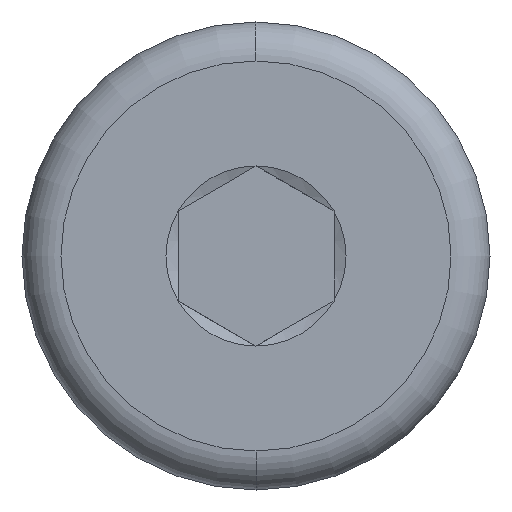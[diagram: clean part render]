
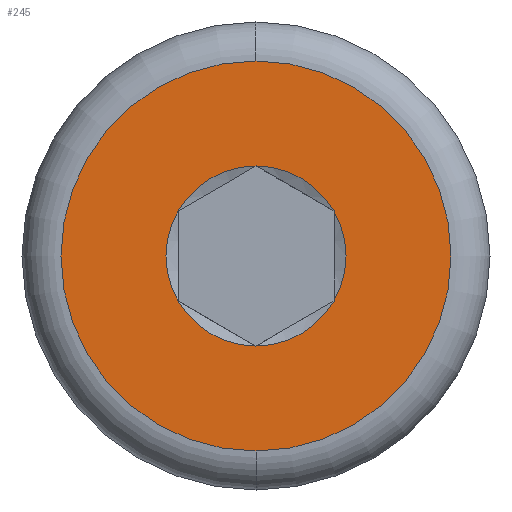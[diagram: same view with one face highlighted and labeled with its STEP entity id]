
A CAD part, left-side view. The second image highlights one B-rep face of the part: STEP entity #245.
In plain terms, the highlighted planar face has unit normal (-1, 0, 0).
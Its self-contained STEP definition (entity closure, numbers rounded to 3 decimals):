
#4 = CIRCLE ( 'NONE', #260, 1.155 ) ;
#8 = ORIENTED_EDGE ( 'NONE', *, *, #176, .T. ) ;
#28 = DIRECTION ( 'NONE',  ( 1., 0., 0. ) ) ;
#54 = CARTESIAN_POINT ( 'NONE',  ( 0., 0., 0. ) ) ;
#56 = CARTESIAN_POINT ( 'NONE',  ( 0., -1., -0.577 ) ) ;
#68 = AXIS2_PLACEMENT_3D ( 'NONE', #230, #188, #550 ) ;
#72 = CARTESIAN_POINT ( 'NONE',  ( 0., 0., -2.5 ) ) ;
#100 = CARTESIAN_POINT ( 'NONE',  ( 0., 0., 0. ) ) ;
#105 = EDGE_CURVE ( 'NONE', #138, #145, #668, .T. ) ;
#114 = EDGE_LOOP ( 'NONE', ( #160, #384 ) ) ;
#131 = EDGE_CURVE ( 'NONE', #403, #649, #431, .T. ) ;
#133 = ORIENTED_EDGE ( 'NONE', *, *, #453, .T. ) ;
#137 = AXIS2_PLACEMENT_3D ( 'NONE', #433, #28, #242 ) ;
#138 = VERTEX_POINT ( 'NONE', #490 ) ;
#145 = VERTEX_POINT ( 'NONE', #597 ) ;
#149 = CIRCLE ( 'NONE', #421, 1.155 ) ;
#160 = ORIENTED_EDGE ( 'NONE', *, *, #251, .F. ) ;
#162 = DIRECTION ( 'NONE',  ( 1., 0., 0. ) ) ;
#163 = VERTEX_POINT ( 'NONE', #648 ) ;
#172 = DIRECTION ( 'NONE',  ( 0., 0., -1. ) ) ;
#176 = EDGE_CURVE ( 'NONE', #145, #341, #4, .T. ) ;
#188 = DIRECTION ( 'NONE',  ( 1., 0., 0. ) ) ;
#213 = DIRECTION ( 'NONE',  ( 0., 0., 1. ) ) ;
#223 = PLANE ( 'NONE',  #443 ) ;
#230 = CARTESIAN_POINT ( 'NONE',  ( 0., 0., 0. ) ) ;
#232 = VERTEX_POINT ( 'NONE', #281 ) ;
#234 = ORIENTED_EDGE ( 'NONE', *, *, #105, .T. ) ;
#242 = DIRECTION ( 'NONE',  ( 0., 0., -1. ) ) ;
#245 = ADVANCED_FACE ( 'NONE', ( #442, #321 ), #223, .T. ) ;
#251 = EDGE_CURVE ( 'NONE', #258, #232, #377, .T. ) ;
#258 = VERTEX_POINT ( 'NONE', #72 ) ;
#259 = CARTESIAN_POINT ( 'NONE',  ( 0., 0., 0. ) ) ;
#260 = AXIS2_PLACEMENT_3D ( 'NONE', #487, #162, #172 ) ;
#262 = AXIS2_PLACEMENT_3D ( 'NONE', #259, #478, #679 ) ;
#268 = DIRECTION ( 'NONE',  ( -1., 0., 0. ) ) ;
#281 = CARTESIAN_POINT ( 'NONE',  ( 0., 0., 2.5 ) ) ;
#282 = ORIENTED_EDGE ( 'NONE', *, *, #320, .T. ) ;
#312 = DIRECTION ( 'NONE',  ( 0., 0., -1. ) ) ;
#316 = CARTESIAN_POINT ( 'NONE',  ( 0., 0., 0. ) ) ;
#320 = EDGE_CURVE ( 'NONE', #163, #403, #376, .T. ) ;
#321 = FACE_OUTER_BOUND ( 'NONE', #114, .T. ) ;
#324 = CARTESIAN_POINT ( 'NONE',  ( 0., 0., 0. ) ) ;
#341 = VERTEX_POINT ( 'NONE', #609 ) ;
#342 = AXIS2_PLACEMENT_3D ( 'NONE', #316, #521, #479 ) ;
#343 = AXIS2_PLACEMENT_3D ( 'NONE', #100, #579, #672 ) ;
#352 = ORIENTED_EDGE ( 'NONE', *, *, #131, .T. ) ;
#376 = CIRCLE ( 'NONE', #68, 1.155 ) ;
#377 = CIRCLE ( 'NONE', #137, 2.5 ) ;
#384 = ORIENTED_EDGE ( 'NONE', *, *, #522, .F. ) ;
#403 = VERTEX_POINT ( 'NONE', #557 ) ;
#421 = AXIS2_PLACEMENT_3D ( 'NONE', #575, #567, #312 ) ;
#431 = CIRCLE ( 'NONE', #583, 1.155 ) ;
#433 = CARTESIAN_POINT ( 'NONE',  ( 0., 0., 0. ) ) ;
#442 = FACE_BOUND ( 'NONE', #659, .T. ) ;
#443 = AXIS2_PLACEMENT_3D ( 'NONE', #54, #268, #213 ) ;
#453 = EDGE_CURVE ( 'NONE', #649, #138, #149, .T. ) ;
#478 = DIRECTION ( 'NONE',  ( 1., 0., 0. ) ) ;
#479 = DIRECTION ( 'NONE',  ( 0., 0., -1. ) ) ;
#487 = CARTESIAN_POINT ( 'NONE',  ( 0., 0., 0. ) ) ;
#490 = CARTESIAN_POINT ( 'NONE',  ( 0., 0., -1.155 ) ) ;
#507 = CIRCLE ( 'NONE', #343, 2.5 ) ;
#521 = DIRECTION ( 'NONE',  ( 1., 0., 0. ) ) ;
#522 = EDGE_CURVE ( 'NONE', #232, #258, #507, .T. ) ;
#532 = DIRECTION ( 'NONE',  ( 1., 0., 0. ) ) ;
#538 = DIRECTION ( 'NONE',  ( 0., 0., -1. ) ) ;
#550 = DIRECTION ( 'NONE',  ( 0., 0., -1. ) ) ;
#557 = CARTESIAN_POINT ( 'NONE',  ( 0., -1., 0.577 ) ) ;
#565 = EDGE_CURVE ( 'NONE', #341, #163, #677, .T. ) ;
#567 = DIRECTION ( 'NONE',  ( 1., 0., 0. ) ) ;
#568 = ORIENTED_EDGE ( 'NONE', *, *, #565, .T. ) ;
#575 = CARTESIAN_POINT ( 'NONE',  ( 0., 0., 0. ) ) ;
#579 = DIRECTION ( 'NONE',  ( 1., 0., 0. ) ) ;
#583 = AXIS2_PLACEMENT_3D ( 'NONE', #324, #532, #538 ) ;
#597 = CARTESIAN_POINT ( 'NONE',  ( 0., 1., -0.577 ) ) ;
#609 = CARTESIAN_POINT ( 'NONE',  ( 0., 1., 0.577 ) ) ;
#648 = CARTESIAN_POINT ( 'NONE',  ( 0., 0., 1.155 ) ) ;
#649 = VERTEX_POINT ( 'NONE', #56 ) ;
#659 = EDGE_LOOP ( 'NONE', ( #568, #282, #352, #133, #234, #8 ) ) ;
#668 = CIRCLE ( 'NONE', #342, 1.155 ) ;
#672 = DIRECTION ( 'NONE',  ( 0., 0., -1. ) ) ;
#677 = CIRCLE ( 'NONE', #262, 1.155 ) ;
#679 = DIRECTION ( 'NONE',  ( 0., 0., -1. ) ) ;
